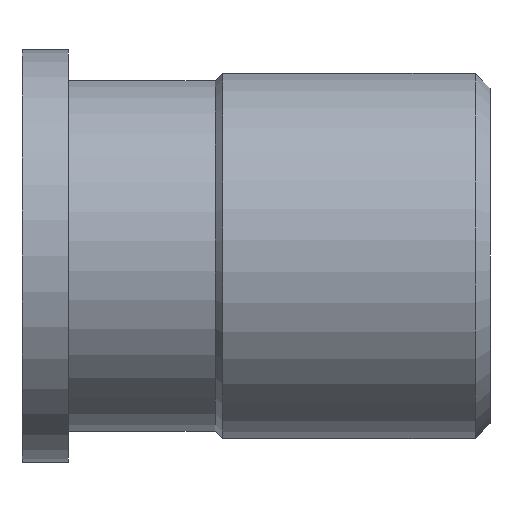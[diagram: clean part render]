
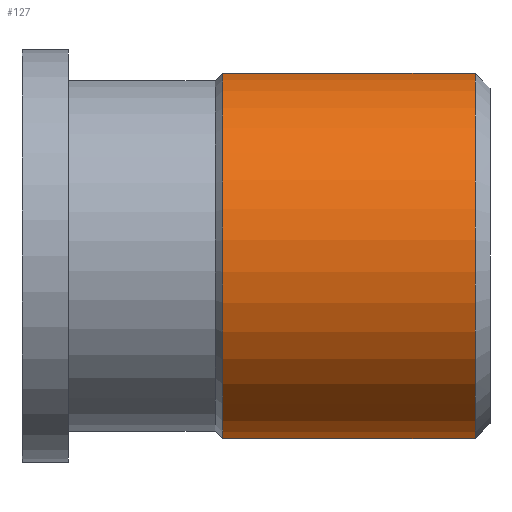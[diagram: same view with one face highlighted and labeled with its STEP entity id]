
A CAD part, front view. The second image highlights one B-rep face of the part: STEP entity #127.
In plain terms, the highlighted cylindrical face has radius 4.95 mm (diameter 9.9 mm), a partial arc.
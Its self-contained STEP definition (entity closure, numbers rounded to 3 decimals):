
#2 = CARTESIAN_POINT ( 'NONE',  ( -7.2, -0.6, 4.914 ) ) ;
#44 = EDGE_CURVE ( 'NONE', #543, #712, #535, .T. ) ;
#71 = CARTESIAN_POINT ( 'NONE',  ( 11.788, -0.6, -4.914 ) ) ;
#113 = CYLINDRICAL_SURFACE ( 'NONE', #377, 4.95 ) ;
#119 = CARTESIAN_POINT ( 'NONE',  ( -0.4, -0.6, -4.914 ) ) ;
#127 = ADVANCED_FACE ( 'NONE', ( #620 ), #113, .T. ) ;
#140 = DIRECTION ( 'NONE',  ( 1., 0., 0. ) ) ;
#144 = LINE ( 'NONE', #71, #288 ) ;
#157 = EDGE_LOOP ( 'NONE', ( #770, #609, #621, #830 ) ) ;
#187 = CARTESIAN_POINT ( 'NONE',  ( -7.2, -0.6, -4.914 ) ) ;
#287 = DIRECTION ( 'NONE',  ( 0., 0., -1. ) ) ;
#288 = VECTOR ( 'NONE', #607, 1000. ) ;
#295 = EDGE_CURVE ( 'NONE', #806, #712, #804, .T. ) ;
#360 = DIRECTION ( 'NONE',  ( 1., 0., 0. ) ) ;
#377 = AXIS2_PLACEMENT_3D ( 'NONE', #420, #360, #287 ) ;
#383 = AXIS2_PLACEMENT_3D ( 'NONE', #458, #583, #578 ) ;
#420 = CARTESIAN_POINT ( 'NONE',  ( 11.788, 0., 0. ) ) ;
#422 = VERTEX_POINT ( 'NONE', #187 ) ;
#444 = AXIS2_PLACEMENT_3D ( 'NONE', #473, #140, #526 ) ;
#458 = CARTESIAN_POINT ( 'NONE',  ( -0.4, 0., 0. ) ) ;
#460 = EDGE_CURVE ( 'NONE', #806, #422, #144, .T. ) ;
#473 = CARTESIAN_POINT ( 'NONE',  ( -7.2, 0., 0. ) ) ;
#479 = CARTESIAN_POINT ( 'NONE',  ( 11.788, -0.6, 4.914 ) ) ;
#526 = DIRECTION ( 'NONE',  ( 0., 0., -1. ) ) ;
#535 = LINE ( 'NONE', #479, #842 ) ;
#543 = VERTEX_POINT ( 'NONE', #2 ) ;
#552 = EDGE_CURVE ( 'NONE', #543, #422, #677, .T. ) ;
#578 = DIRECTION ( 'NONE',  ( 0., 0., -1. ) ) ;
#583 = DIRECTION ( 'NONE',  ( -1., 0., 0. ) ) ;
#607 = DIRECTION ( 'NONE',  ( -1., 0., 0. ) ) ;
#609 = ORIENTED_EDGE ( 'NONE', *, *, #295, .T. ) ;
#620 = FACE_OUTER_BOUND ( 'NONE', #157, .T. ) ;
#621 = ORIENTED_EDGE ( 'NONE', *, *, #44, .F. ) ;
#658 = DIRECTION ( 'NONE',  ( 1., 0., 0. ) ) ;
#677 = CIRCLE ( 'NONE', #444, 4.95 ) ;
#712 = VERTEX_POINT ( 'NONE', #819 ) ;
#770 = ORIENTED_EDGE ( 'NONE', *, *, #460, .F. ) ;
#804 = CIRCLE ( 'NONE', #383, 4.95 ) ;
#806 = VERTEX_POINT ( 'NONE', #119 ) ;
#819 = CARTESIAN_POINT ( 'NONE',  ( -0.4, -0.6, 4.914 ) ) ;
#830 = ORIENTED_EDGE ( 'NONE', *, *, #552, .T. ) ;
#842 = VECTOR ( 'NONE', #658, 1000. ) ;
